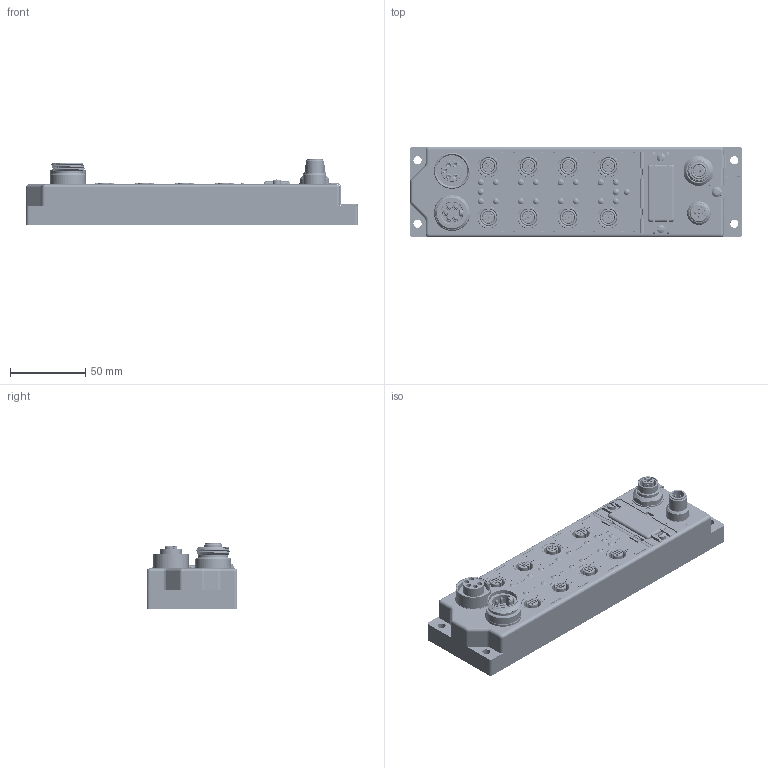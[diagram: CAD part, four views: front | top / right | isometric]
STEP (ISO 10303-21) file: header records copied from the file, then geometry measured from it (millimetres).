
FILE_DESCRIPTION (( 'STEP AP203' ), '1' );
FILE_NAME ('SIOL-8M12.STEP', '2021-08-09T05:52:33', ( '' ), ( '' ), 'SwSTEP 2.0', 'SolidWorks 2018', '' );
FILE_SCHEMA (( 'CONFIG_CONTROL_DESIGN' ));
Products named in the file (1): SIOL-8M12
Bounding box: 220 x 60 x 44 mm (x, y, z)
Volume: 515163.8 mm3; surface area: 143318.1 mm2
Topology: 129 solids, 129 shells, 7508 faces, 19270 edges, 12296 vertices
Faces by surface type: cylinder 3436, plane 2434, cone 871, bspline 471, torus 244, sphere 52
Entity records: 295082 total; most frequent: CARTESIAN_POINT 141621, ORIENTED_EDGE 38068, DIRECTION 21637, EDGE_CURVE 19034, B_SPLINE_CURVE_WITH_KNOTS 13056, VERTEX_POINT 12296, AXIS2_PLACEMENT_3D 9242, EDGE_LOOP 8356
